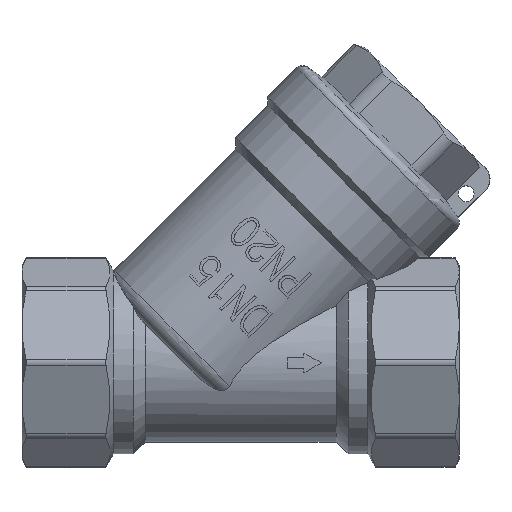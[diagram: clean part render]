
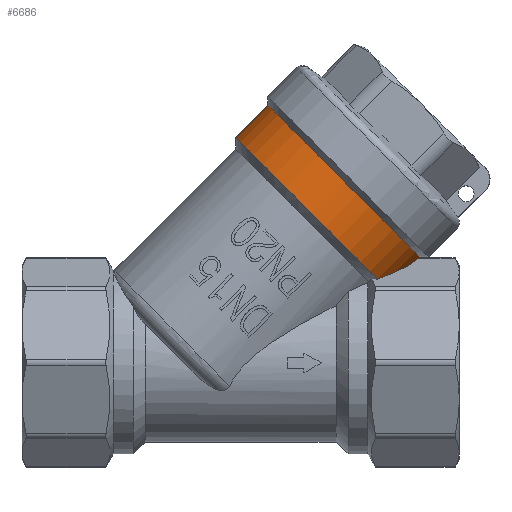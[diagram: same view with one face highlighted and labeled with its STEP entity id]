
A CAD part, top view. The second image highlights one B-rep face of the part: STEP entity #6686.
In plain terms, the highlighted cylindrical face has radius 13.5 mm (diameter 27 mm), a full revolution.
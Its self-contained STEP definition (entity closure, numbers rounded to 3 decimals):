
#206=ELLIPSE('',#7214,20.665,13.5);
#207=ELLIPSE('',#7218,20.665,13.5);
#532=B_SPLINE_CURVE_WITH_KNOTS('',3,(#16702,#16703,#16704,#16705,#16706,
#16707,#16708,#16709),.UNSPECIFIED.,.F.,.F.,(4,2,2,4),(0.147,
0.149,0.167,0.186),.UNSPECIFIED.);
#533=B_SPLINE_CURVE_WITH_KNOTS('',3,(#16711,#16712,#16713,#16714,#16715,
#16716,#16717,#16718),.UNSPECIFIED.,.F.,.F.,(4,2,2,4),(0.186,
0.205,0.224,0.225),.UNSPECIFIED.);
#1108=FACE_OUTER_BOUND('',#1506,.T.);
#1506=EDGE_LOOP('',(#6143,#6144,#6145,#6146,#6147,#6148,#6149,#6150,#6151));
#1879=LINE('',#16835,#2240);
#2240=VECTOR('',#8656,13.5);
#2447=CIRCLE('',#7235,13.5);
#2448=CIRCLE('',#7236,13.5);
#2449=CIRCLE('',#7238,13.5);
#3129=VERTEX_POINT('',#16690);
#3130=VERTEX_POINT('',#16694);
#3131=VERTEX_POINT('',#16701);
#3132=VERTEX_POINT('',#16710);
#3134=VERTEX_POINT('',#16738);
#3142=VERTEX_POINT('',#16829);
#3143=VERTEX_POINT('',#16831);
#4132=EDGE_CURVE('',#3129,#3130,#206,.T.);
#4135=EDGE_CURVE('',#3130,#3131,#532,.T.);
#4136=EDGE_CURVE('',#3131,#3132,#533,.T.);
#4141=EDGE_CURVE('',#3132,#3134,#207,.T.);
#4157=EDGE_CURVE('',#3142,#3143,#2447,.T.);
#4158=EDGE_CURVE('',#3143,#3142,#2448,.T.);
#4159=EDGE_CURVE('',#3142,#3131,#1879,.T.);
#4160=EDGE_CURVE('',#3129,#3134,#2449,.T.);
#6143=ORIENTED_EDGE('',*,*,#4158,.F.);
#6144=ORIENTED_EDGE('',*,*,#4157,.F.);
#6145=ORIENTED_EDGE('',*,*,#4159,.T.);
#6146=ORIENTED_EDGE('',*,*,#4135,.F.);
#6147=ORIENTED_EDGE('',*,*,#4132,.F.);
#6148=ORIENTED_EDGE('',*,*,#4160,.T.);
#6149=ORIENTED_EDGE('',*,*,#4141,.F.);
#6150=ORIENTED_EDGE('',*,*,#4136,.F.);
#6151=ORIENTED_EDGE('',*,*,#4159,.F.);
#6332=CYLINDRICAL_SURFACE('',#7237,13.5);
#6686=ADVANCED_FACE('',(#1108),#6332,.T.);
#7214=AXIS2_PLACEMENT_3D('',#16695,#8603,#8604);
#7218=AXIS2_PLACEMENT_3D('',#16739,#8613,#8614);
#7235=AXIS2_PLACEMENT_3D('',#16832,#8650,#8651);
#7236=AXIS2_PLACEMENT_3D('',#16833,#8652,#8653);
#7237=AXIS2_PLACEMENT_3D('',#16834,#8654,#8655);
#7238=AXIS2_PLACEMENT_3D('',#16836,#8657,#8658);
#8603=DIRECTION('center_axis',(0.,-0.924,0.383));
#8604=DIRECTION('ref_axis',(-0.934,-0.137,-0.33));
#8613=DIRECTION('center_axis',(0.,-0.924,-0.383));
#8614=DIRECTION('ref_axis',(-0.934,-0.137,0.33));
#8650=DIRECTION('center_axis',(0.707,0.707,0.));
#8651=DIRECTION('ref_axis',(0.707,-0.707,0.));
#8652=DIRECTION('center_axis',(0.707,0.707,0.));
#8653=DIRECTION('ref_axis',(0.707,-0.707,0.));
#8654=DIRECTION('center_axis',(0.707,0.707,0.));
#8655=DIRECTION('ref_axis',(-0.707,0.707,0.));
#8656=DIRECTION('',(-0.707,-0.707,0.));
#8657=DIRECTION('center_axis',(0.707,0.707,0.));
#8658=DIRECTION('ref_axis',(0.707,-0.707,0.));
#16690=CARTESIAN_POINT('',(17.186,10.47,-6.735));
#16694=CARTESIAN_POINT('',(22.356,13.101,-0.383));
#16695=CARTESIAN_POINT('Origin',(3.43,13.259,0.));
#16701=CARTESIAN_POINT('',(22.439,13.177,0.));
#16702=CARTESIAN_POINT('Ctrl Pts',(22.356,13.101,-0.383));
#16703=CARTESIAN_POINT('Ctrl Pts',(22.358,13.103,-0.377));
#16704=CARTESIAN_POINT('Ctrl Pts',(22.361,13.106,-0.371));
#16705=CARTESIAN_POINT('Ctrl Pts',(22.388,13.13,-0.309));
#16706=CARTESIAN_POINT('Ctrl Pts',(22.407,13.148,-0.249));
#16707=CARTESIAN_POINT('Ctrl Pts',(22.433,13.171,-0.126));
#16708=CARTESIAN_POINT('Ctrl Pts',(22.439,13.177,-0.062));
#16709=CARTESIAN_POINT('Ctrl Pts',(22.439,13.177,0.));
#16710=CARTESIAN_POINT('',(22.356,13.101,0.383));
#16711=CARTESIAN_POINT('Ctrl Pts',(22.439,13.177,0.));
#16712=CARTESIAN_POINT('Ctrl Pts',(22.439,13.177,0.062));
#16713=CARTESIAN_POINT('Ctrl Pts',(22.433,13.171,0.126));
#16714=CARTESIAN_POINT('Ctrl Pts',(22.407,13.148,0.249));
#16715=CARTESIAN_POINT('Ctrl Pts',(22.388,13.13,0.309));
#16716=CARTESIAN_POINT('Ctrl Pts',(22.361,13.106,0.371));
#16717=CARTESIAN_POINT('Ctrl Pts',(22.358,13.103,0.377));
#16718=CARTESIAN_POINT('Ctrl Pts',(22.356,13.101,0.383));
#16738=CARTESIAN_POINT('',(17.186,10.47,6.735));
#16739=CARTESIAN_POINT('Origin',(3.43,13.259,0.));
#16829=CARTESIAN_POINT('',(22.525,13.263,0.));
#16831=CARTESIAN_POINT('',(3.433,32.355,0.));
#16832=CARTESIAN_POINT('Origin',(12.979,22.809,0.));
#16833=CARTESIAN_POINT('Origin',(12.979,22.809,0.));
#16834=CARTESIAN_POINT('Origin',(10.946,20.776,0.));
#16835=CARTESIAN_POINT('',(20.492,11.23,0.));
#16836=CARTESIAN_POINT('Origin',(8.913,18.743,0.));
